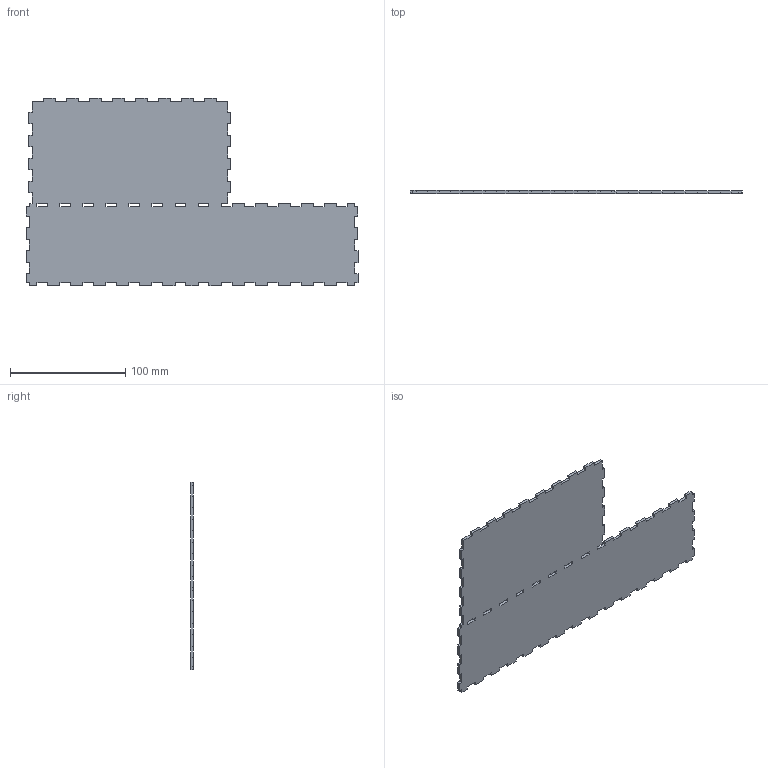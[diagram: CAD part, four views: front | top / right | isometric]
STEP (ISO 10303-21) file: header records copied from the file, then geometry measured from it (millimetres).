
FILE_DESCRIPTION (( 'STEP AP214' ), '1' );
FILE_NAME ('Base_cardsdown.STEP', '2025-06-15T00:43:46', ( '' ), ( '' ), 'SwSTEP 2.0', 'SolidWorks 2024', '' );
FILE_SCHEMA (( 'AUTOMOTIVE_DESIGN' ));
Length unit declared in the file: millimetre
Products named in the file (1): Base_cardsdown
Bounding box: 288.6 x 2.5 x 163.4 mm (x, y, z)
Volume: 88246.9 mm3; surface area: 73954.4 mm2
Topology: 1 solids, 1 shells, 218 faces, 648 edges, 432 vertices
Faces by surface type: plane 218
Entity records: 7207 total; most frequent: CARTESIAN_POINT 1299, ORIENTED_EDGE 1296, DIRECTION 1086, LINE 648, EDGE_CURVE 648, VECTOR 648, VERTEX_POINT 432, EDGE_LOOP 234
